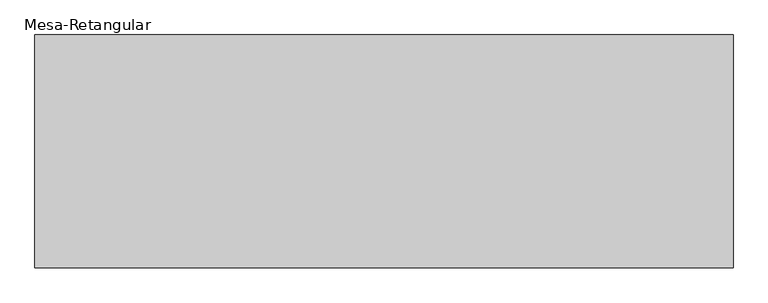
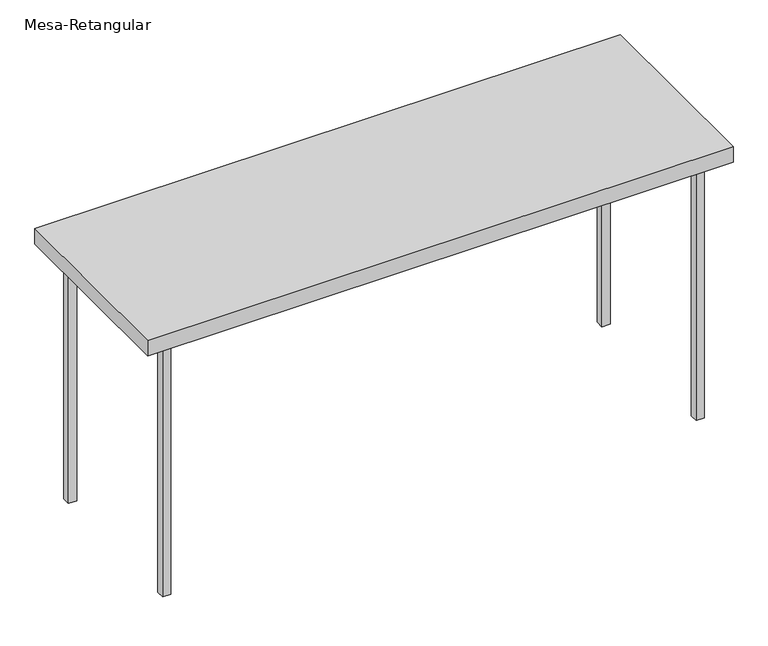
"""IFC4 building model written with IfcOpenShell, lengths in millimetres: furniture geometry, Mesa-Retangular : Mesa aço inox 160x60cm 88AL."""

from ifc_helpers import new_model, si_unit, frame, origin, origin_with_axes, place, context, project, spatial, polyline, outline, extrude, source, transform, mapped, element, save


def mesa_retangular_2c27772b(model_context):
    return source(origin(), model_context, "Body", "SweptSolid", [
        extrude(outline(polyline([(-832.8946305, 238.2145104), (-832.8946305, 263.6145104), (-807.4946305, 263.6145104), (-807.4946305, 238.2145104), (-832.8946305, 238.2145104)])), origin_with_axes(), (0.0, 0.0, 1.0), 829.2),
        extrude(outline(polyline([(-832.8946305, -238.2145104), (-807.4946305, -238.2145104), (-807.4946305, -263.6145104), (-832.8946305, -263.6145104), (-832.8946305, -238.2145104)])), origin_with_axes(), (0.0, 0.0, 1.0), 829.2),
        extrude(outline(polyline([(832.8946305, 238.2145104), (807.4946305, 238.2145104), (807.4946305, 263.6145104), (832.8946305, 263.6145104), (832.8946305, 238.2145104)])), origin_with_axes(), (0.0, 0.0, 1.0), 829.2),
        extrude(outline(polyline([(832.8946305, -238.2145104), (832.8946305, -263.6145104), (807.4946305, -263.6145104), (807.4946305, -238.2145104), (832.8946305, -238.2145104)])), origin_with_axes(), (0.0, 0.0, 1.0), 829.2),
        extrude(outline(polyline([(900.0, 300.0), (900.0, -300.0), (-900.0, -300.0), (-900.0, 300.0), (900.0, 300.0)])), frame((0.0, 0.0, 829.2), z_axis=(0.0, 0.0, 1.0), x_axis=(1.0, 0.0, 0.0)), (0.0, 0.0, 1.0), 50.8),
    ])


if __name__ == "__main__":
    model = new_model("IFC4")
    model_context = context("Model", 3, world=origin())
    ifc_project = project(units=[si_unit("LENGTHUNIT", "METRE", prefix="MILLI")], contexts=[model_context])
    site = spatial("IfcSite", under=ifc_project)
    building = spatial("IfcBuilding", under=site)
    placement = place(None, origin())
    mesa_retangular_shape = mesa_retangular_2c27772b(model_context)
    element("IfcFurniture", 1, ObjectType="Mesa-Retangular : Mesa aço inox 160x60cm 88AL", at=placement, inside=building, context=model_context, shape_type="MappedRepresentation", body=[
        mapped(mesa_retangular_shape, transform((0.0, 0.0, 0.0), x_axis=(1.0, 0.0, 0.0), y_axis=(0.0, 1.0, 0.0), z_axis=(0.0, 0.0, 1.0))),
    ])
    save(model, "model.ifc")
